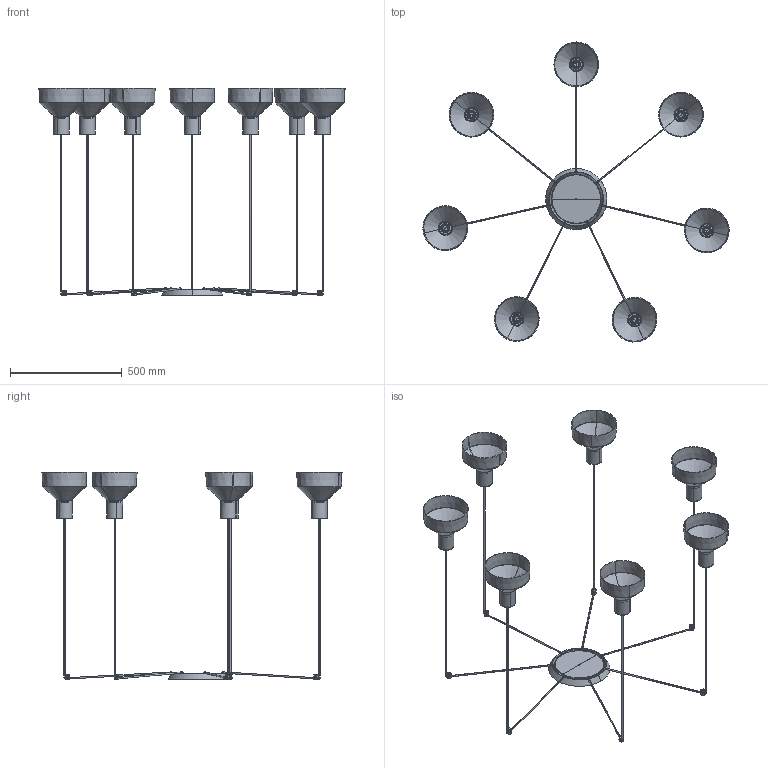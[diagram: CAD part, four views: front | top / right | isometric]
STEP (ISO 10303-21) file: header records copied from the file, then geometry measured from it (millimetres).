
FILE_DESCRIPTION(/* description */ (''),/* implementation_level */ '2;1');
FILE_NAME(/* name */ 'C:\Users\Franco Sartori E\Documents\FARO\DUPLICADO\Modelos\01_Digitalizados\2021\KOMBO\03_Publicación\68593-7L.stp',/* time_stamp */ '2021-02-25T10:13:04+01:00',/* author */ ('Franco Sartori E'),/* organization */ (''),/* preprocessor_version */ 'ST-DEVELOPER v18.1',/* originating_system */ 'AutoCAD Mechanical',/* authorisation */ '');
FILE_SCHEMA (('AUTOMOTIVE_DESIGN { 1 0 10303 214 3 1 1 }'));
Products named in the file (3): Product; CANOPY_7 - 68603-390672-_3D_; KOMBO200FMA - LH-390684-_3D_
Assembly tree (8 placements, depth 2):
  Product
    CANOPY_7 - 68603-390672-_3D_
    KOMBO200FMA - LH-390684-_3D_  x7
Bounding box: 1367.97 x 1340.39 x 924.93 mm (x, y, z)
Volume: 1894596 mm3; surface area: 3253407.9 mm2
Topology: 86 solids, 100 shells, 1794 faces, 4227 edges, 2522 vertices
Faces by surface type: cylinder 625, plane 623, torus 298, cone 248
Entity records: 47784 total; most frequent: CARTESIAN_POINT 21566, ORIENTED_EDGE 5407, DIRECTION 5255, EDGE_CURVE 2749, AXIS2_PLACEMENT_3D 2088, VERTEX_POINT 1646, EDGE_LOOP 1272, FACE_OUTER_BOUND 1194
